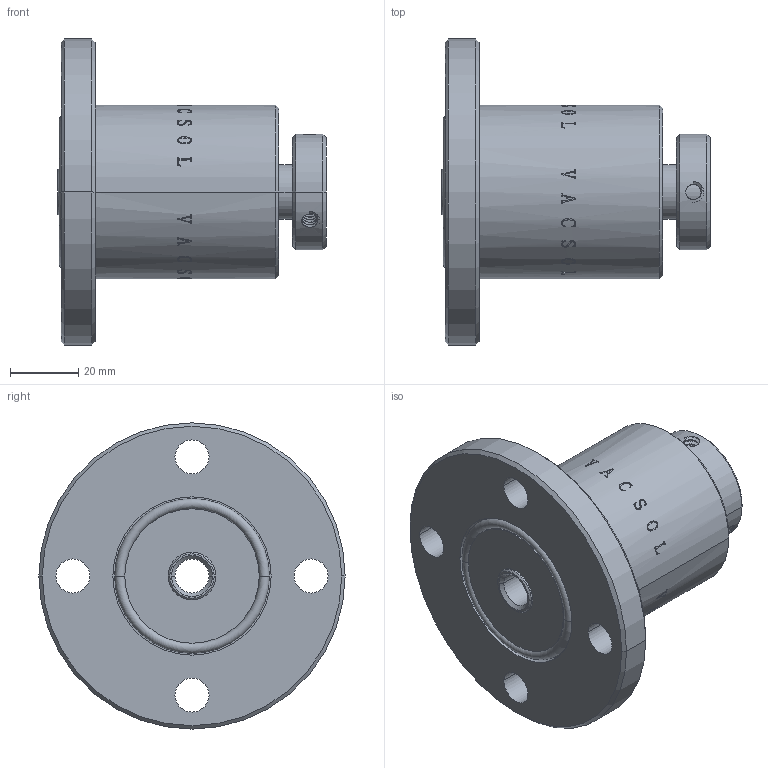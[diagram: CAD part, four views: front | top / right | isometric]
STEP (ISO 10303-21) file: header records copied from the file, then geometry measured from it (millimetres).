
FILE_DESCRIPTION (( 'STEP AP214' ), '1' );
FILE_NAME ('m10.STEP', '2010-08-26T12:22:31', ( 'user' ), ( '' ), 'SwSTEP 2.0', 'SolidWorks 2007', '' );
FILE_SCHEMA (( 'AUTOMOTIVE_DESIGN' ));
Length unit declared in the file: millimetre
Products named in the file (1): m10
Bounding box: 79 x 90 x 90 mm (x, y, z)
Volume: 173019.4 mm3; surface area: 32724.5 mm2
Topology: 2 solids, 2 shells, 442 faces, 1200 edges, 792 vertices
Faces by surface type: bspline 264, cylinder 93, plane 61, cone 20, torus 4
Entity records: 44522 total; most frequent: CARTESIAN_POINT 32338, ORIENTED_EDGE 2400, EDGE_CURVE 1200, B_SPLINE_CURVE_WITH_KNOTS 819, VERTEX_POINT 792, DIRECTION 783, EDGE_LOOP 490, FACE_OUTER_BOUND 442
